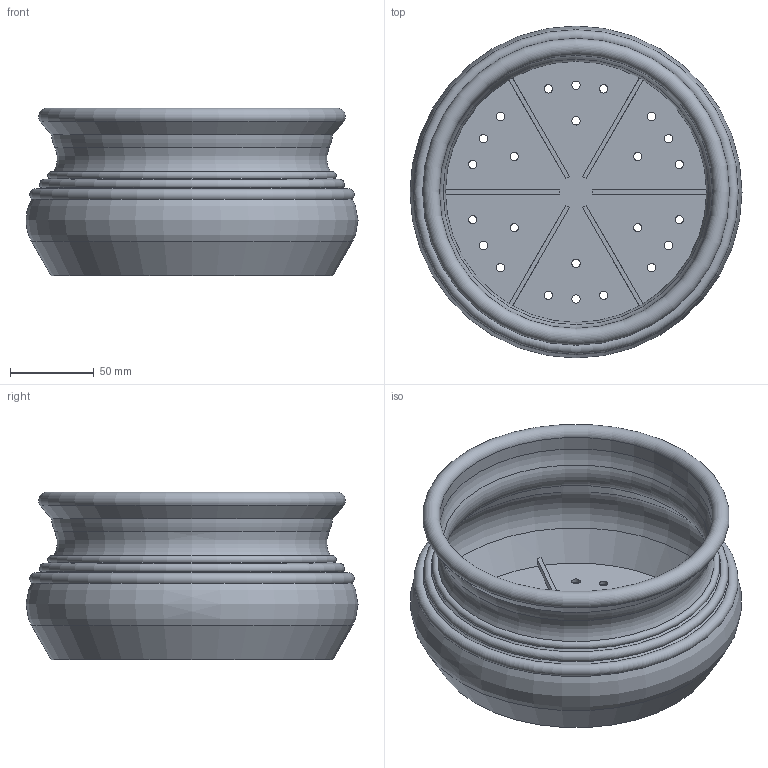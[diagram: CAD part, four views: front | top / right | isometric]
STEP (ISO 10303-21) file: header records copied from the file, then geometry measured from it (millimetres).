
FILE_DESCRIPTION(/* description */ (''),/* implementation_level */ '2;1');
FILE_NAME(/* name */ 'LR2406-S25-H100-D200_step.step',/* time_stamp */ '2024-02-01T10:58:47+01:00',/* author */ (''),/* organization */ (''),/* preprocessor_version */ 'ST-DEVELOPER v20',/* originating_system */ 'Autodesk Translation Framework v12.20.1.177',/* authorisation */ '');
FILE_SCHEMA (('AUTOMOTIVE_DESIGN { 1 0 10303 214 3 1 1 }'));
Length unit declared in the file: millimetre
Products named in the file (1): LR2406-S25-H100-D200
Bounding box: 198 x 198 x 100 mm (x, y, z)
Volume: 252462.3 mm3; surface area: 176570.3 mm2
Topology: 1 solids, 1 shells, 67 faces, 179 edges, 114 vertices
Faces by surface type: cylinder 31, plane 20, torus 10, cone 6
Full cylindrical faces by diameter (mm): 5 x24, 163 x1
Entity records: 2261 total; most frequent: DIRECTION 415, CARTESIAN_POINT 361, ORIENTED_EDGE 358, EDGE_CURVE 179, AXIS2_PLACEMENT_3D 168, EDGE_LOOP 115, VERTEX_POINT 114, CIRCLE 100
